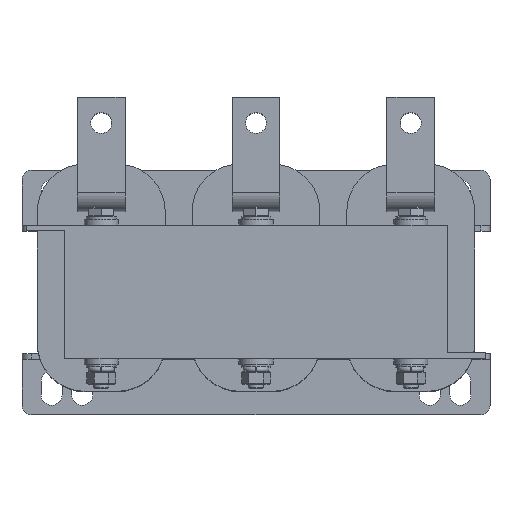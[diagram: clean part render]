
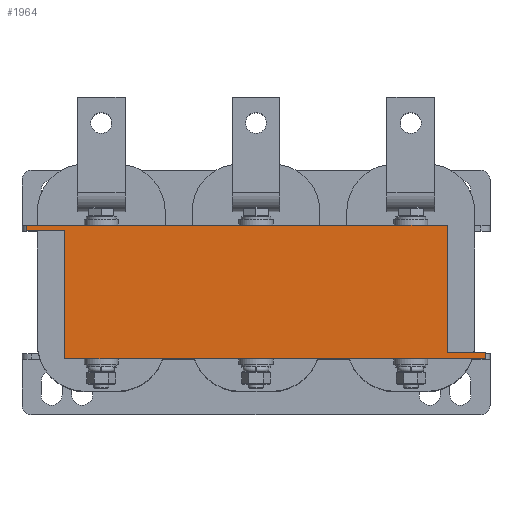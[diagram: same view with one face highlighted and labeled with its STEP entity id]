
A CAD part, top view. The second image highlights one B-rep face of the part: STEP entity #1964.
In plain terms, the highlighted planar face has unit normal (0, 0, 1).
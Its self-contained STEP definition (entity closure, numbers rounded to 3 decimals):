
#1964=ADVANCED_FACE('',(#2726),#2728,.T.);
#2726=FACE_BOUND('',#2727,.T.);
#2727=EDGE_LOOP('',(#3630,#3631,#3632,#3633,#3634,#3635,#3636,#3637));
#2728=PLANE('',#2729);
#2729=AXIS2_PLACEMENT_3D('',#2730,#2731,#2732);
#2730=CARTESIAN_POINT('',(0.,0.,41.));
#2731=DIRECTION('',(0.,0.,1.));
#2732=DIRECTION('',(-1.,0.,0.));
#3630=ORIENTED_EDGE('',*,*,#4072,.T.);
#3631=ORIENTED_EDGE('',*,*,#4091,.T.);
#3632=ORIENTED_EDGE('',*,*,#4061,.T.);
#3633=ORIENTED_EDGE('',*,*,#4092,.T.);
#3634=ORIENTED_EDGE('',*,*,#4053,.T.);
#3635=ORIENTED_EDGE('',*,*,#4093,.T.);
#3636=ORIENTED_EDGE('',*,*,#4042,.T.);
#3637=ORIENTED_EDGE('',*,*,#4090,.T.);
#4042=EDGE_CURVE('',#4496,#4494,#4497,.T.);
#4053=EDGE_CURVE('',#4518,#4516,#4519,.T.);
#4061=EDGE_CURVE('',#4534,#4532,#4535,.T.);
#4072=EDGE_CURVE('',#4556,#4554,#4557,.T.);
#4090=EDGE_CURVE('',#4494,#4556,#4579,.T.);
#4091=EDGE_CURVE('',#4554,#4534,#4580,.T.);
#4092=EDGE_CURVE('',#4532,#4518,#4581,.T.);
#4093=EDGE_CURVE('',#4516,#4496,#4582,.T.);
#4494=VERTEX_POINT('',#5450);
#4496=VERTEX_POINT('',#5454);
#4497=LINE('',#5455,#5456);
#4516=VERTEX_POINT('',#5499);
#4518=VERTEX_POINT('',#5503);
#4519=LINE('',#5504,#5505);
#4532=VERTEX_POINT('',#5533);
#4534=VERTEX_POINT('',#5537);
#4535=LINE('',#5538,#5539);
#4554=VERTEX_POINT('',#5582);
#4556=VERTEX_POINT('',#5586);
#4557=LINE('',#5587,#5588);
#4579=LINE('',#5647,#5648);
#4580=LINE('',#5650,#5651);
#4581=LINE('',#5653,#5654);
#4582=LINE('',#5656,#5657);
#5450=CARTESIAN_POINT('',(-120.,35.,41.));
#5454=CARTESIAN_POINT('',(100.,35.,41.));
#5455=CARTESIAN_POINT('',(100.,35.,41.));
#5456=VECTOR('',#5457,1.);
#5457=DIRECTION('',(-1.,0.,0.));
#5499=CARTESIAN_POINT('',(100.,-32.,41.));
#5503=CARTESIAN_POINT('',(120.,-32.,41.));
#5504=CARTESIAN_POINT('',(120.,-32.,41.));
#5505=VECTOR('',#5506,1.);
#5506=DIRECTION('',(-1.,0.,0.));
#5533=CARTESIAN_POINT('',(120.,-35.,41.));
#5537=CARTESIAN_POINT('',(-100.,-35.,41.));
#5538=CARTESIAN_POINT('',(-100.,-35.,41.));
#5539=VECTOR('',#5540,1.);
#5540=DIRECTION('',(1.,0.,0.));
#5582=CARTESIAN_POINT('',(-100.,32.,41.));
#5586=CARTESIAN_POINT('',(-120.,32.,41.));
#5587=CARTESIAN_POINT('',(-120.,32.,41.));
#5588=VECTOR('',#5589,1.);
#5589=DIRECTION('',(1.,0.,0.));
#5647=CARTESIAN_POINT('',(-120.,35.,41.));
#5648=VECTOR('',#5649,1.);
#5649=DIRECTION('',(0.,-1.,0.));
#5650=CARTESIAN_POINT('',(-100.,32.,41.));
#5651=VECTOR('',#5652,1.);
#5652=DIRECTION('',(0.,-1.,0.));
#5653=CARTESIAN_POINT('',(120.,-35.,41.));
#5654=VECTOR('',#5655,1.);
#5655=DIRECTION('',(0.,1.,0.));
#5656=CARTESIAN_POINT('',(100.,-32.,41.));
#5657=VECTOR('',#5658,1.);
#5658=DIRECTION('',(0.,1.,0.));
